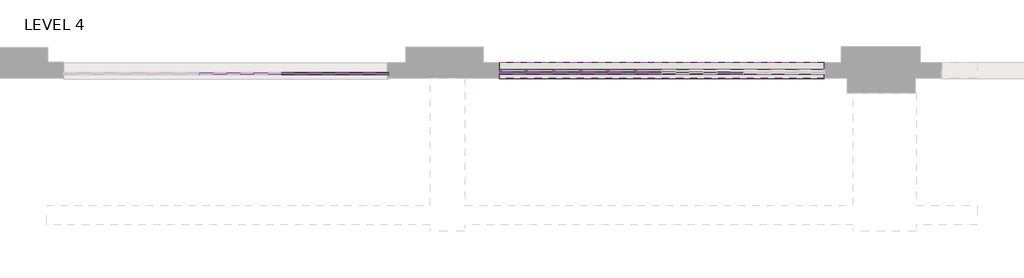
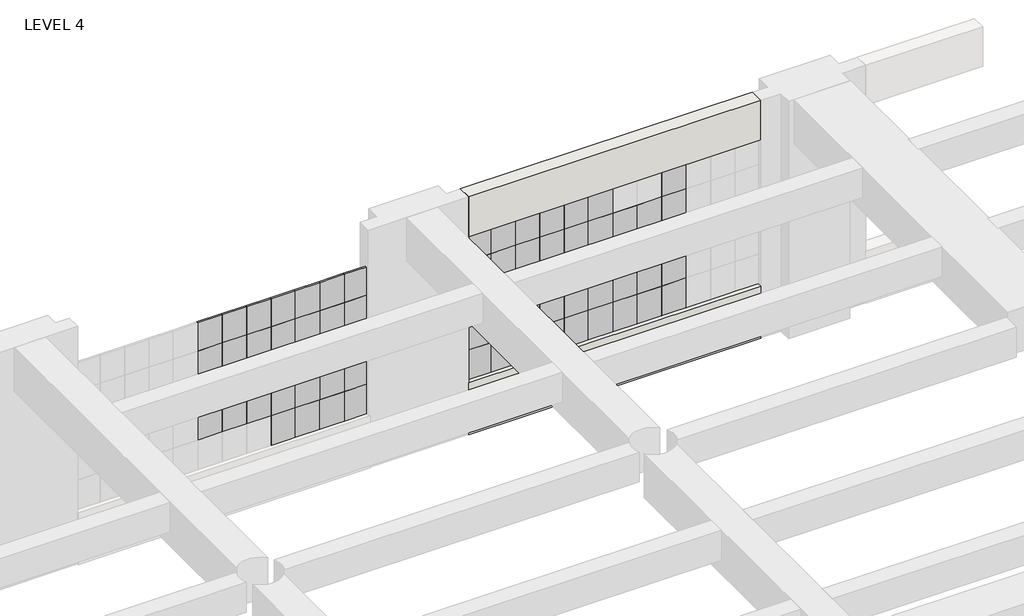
# One storey, part 12 of 26: 75 plates, 55 members, 2 walls.
"""IFC4 building model written with IfcOpenShell, lengths in millimetres."""

from ifc_helpers import new_model, si_unit, frame, origin, origin_with_axes, place, context, project, spatial, polyline, outline, extrude, transform, mapped, element, save
from components import member_038dcf1c, member_3d4b608b, member_3c10d71f, member_653bb31e, member_9ec6e97d, member_6e26db71, member_d9fec558, member_6c57b699, member_ec43e15b, member_0f6da5c5, member_0e6c94ff, system_panel_glazed_ab35d819, system_panel_glazed_fc65e113, system_panel_glazed_418eb6cd, system_panel_glazed_dc7be1f0

model = new_model("IFC4")

# Units and contexts
model_context = context("Model", 3, world=origin())
ifc_project = project(units=[si_unit("LENGTHUNIT", "METRE", prefix="MILLI")], contexts=[model_context])

# Site, building, storey
site = spatial("IfcSite", under=ifc_project)
building = spatial("IfcBuilding", under=site)
storey = spatial("IfcBuildingStorey", under=building, Name="LEVEL 4", Elevation=0.0)

# Members
placement = place(None, origin())
member_shape = member_038dcf1c(model_context)
element("IfcMember", 1, ObjectType="Circular Mullion : 1 1/4\" Square", at=placement, inside=storey, context=model_context, shape_type="MappedRepresentation", body=[
    mapped(member_shape, transform((-25211.1085473, 117234.1841334, 2628.9), x_axis=(-1.0, 0.0, 0.0), y_axis=(0.0, -1.0, 0.0), z_axis=(0.0, 0.0, 1.0))),
])
element("IfcMember", 2, ObjectType="Circular Mullion : 1 1/4\" Square", at=placement, inside=storey, context=model_context, shape_type="MappedRepresentation", body=[
    mapped(member_shape, transform((-25211.1085473, 117234.1841334, 2171.7), x_axis=(-1.0, 0.0, 0.0), y_axis=(0.0, -1.0, 0.0), z_axis=(0.0, 0.0, 1.0))),
])
member_2_shape = member_3d4b608b(model_context)
element("IfcMember", 3, ObjectType="Circular Mullion : 1 1/4\" Square", at=placement, inside=storey, context=model_context, shape_type="MappedRepresentation", body=[
    mapped(member_2_shape, transform((-24855.508547, 117234.1841334, 2171.7), x_axis=(1.0, 0.0, 0.0), y_axis=(0.0, -1.0, 0.0), z_axis=(0.0, 0.0, -1.0))),
])
element("IfcMember", 4, ObjectType="Circular Mullion : 1 1/4\" Square", at=placement, inside=storey, context=model_context, shape_type="MappedRepresentation", body=[
    mapped(member_2_shape, transform((-24855.508547, 117234.1841334, 1714.5), x_axis=(1.0, 0.0, 0.0), y_axis=(0.0, -1.0, 0.0), z_axis=(0.0, 0.0, -1.0))),
])
element("IfcMember", 5, ObjectType="Circular Mullion : 1 1/4\" Square", at=placement, inside=storey, context=model_context, shape_type="MappedRepresentation", body=[
    mapped(member_2_shape, transform((-24499.908547, 117234.1841334, 2171.7), x_axis=(1.0, 0.0, 0.0), y_axis=(0.0, -1.0, 0.0), z_axis=(0.0, 0.0, -1.0))),
])
element("IfcMember", 6, ObjectType="Circular Mullion : 1 1/4\" Square", at=placement, inside=storey, context=model_context, shape_type="MappedRepresentation", body=[
    mapped(member_2_shape, transform((-24499.908547, 117234.1841334, 1714.5), x_axis=(1.0, 0.0, 0.0), y_axis=(0.0, -1.0, 0.0), z_axis=(0.0, 0.0, -1.0))),
])
element("IfcMember", 7, ObjectType="Circular Mullion : 1 1/4\" Square", at=placement, inside=storey, context=model_context, shape_type="MappedRepresentation", body=[
    mapped(member_2_shape, transform((-24144.308547, 117234.1841334, 2171.7), x_axis=(1.0, 0.0, 0.0), y_axis=(0.0, -1.0, 0.0), z_axis=(0.0, 0.0, -1.0))),
])
element("IfcMember", 8, ObjectType="Circular Mullion : 1 1/4\" Square", at=placement, inside=storey, context=model_context, shape_type="MappedRepresentation", body=[
    mapped(member_2_shape, transform((-24144.308547, 117234.1841334, 1714.5), x_axis=(1.0, 0.0, 0.0), y_axis=(0.0, -1.0, 0.0), z_axis=(0.0, 0.0, -1.0))),
])
element("IfcMember", 9, ObjectType="Circular Mullion : 1 1/4\" Square", at=placement, inside=storey, context=model_context, shape_type="MappedRepresentation", body=[
    mapped(member_2_shape, transform((-23788.708547, 117234.1841334, 2171.7), x_axis=(1.0, 0.0, 0.0), y_axis=(0.0, -1.0, 0.0), z_axis=(0.0, 0.0, -1.0))),
])
element("IfcMember", 10, ObjectType="Circular Mullion : 1 1/4\" Square", at=placement, inside=storey, context=model_context, shape_type="MappedRepresentation", body=[
    mapped(member_2_shape, transform((-23788.708547, 117234.1841334, 1714.5), x_axis=(1.0, 0.0, 0.0), y_axis=(0.0, -1.0, 0.0), z_axis=(0.0, 0.0, -1.0))),
])
element("IfcMember", 11, ObjectType="Circular Mullion : 1 1/4\" Square", at=placement, inside=storey, context=model_context, shape_type="MappedRepresentation", body=[
    mapped(member_2_shape, transform((-23433.108547, 117234.1841334, 2171.7), x_axis=(1.0, 0.0, 0.0), y_axis=(0.0, -1.0, 0.0), z_axis=(0.0, 0.0, -1.0))),
])
element("IfcMember", 12, ObjectType="Circular Mullion : 1 1/4\" Square", at=placement, inside=storey, context=model_context, shape_type="MappedRepresentation", body=[
    mapped(member_2_shape, transform((-23433.108547, 117234.1841334, 1714.5), x_axis=(1.0, 0.0, 0.0), y_axis=(0.0, -1.0, 0.0), z_axis=(0.0, 0.0, -1.0))),
])
member_3_shape = member_3c10d71f(model_context)
element("IfcMember", 13, ObjectType="Circular Mullion : 1 1/4\" Square", at=placement, inside=storey, context=model_context, shape_type="MappedRepresentation", body=[
    mapped(member_3_shape, transform((-24487.208547, 117234.1841334, 800.1), x_axis=(0.0, 0.0, -1.0), y_axis=(0.0, -1.0, 0.0), z_axis=(-1.0, 0.0, 0.0))),
])
element("IfcMember", 14, ObjectType="Circular Mullion : 1 1/4\" Square", at=placement, inside=storey, context=model_context, shape_type="MappedRepresentation", body=[
    mapped(member_3_shape, transform((-24842.808547, 117234.1841334, 800.1), x_axis=(0.0, 0.0, -1.0), y_axis=(0.0, -1.0, 0.0), z_axis=(-1.0, 0.0, 0.0))),
])
element("IfcMember", 15, ObjectType="Circular Mullion : 1 1/4\" Square", at=placement, inside=storey, context=model_context, shape_type="MappedRepresentation", body=[
    mapped(member_3_shape, transform((-24131.608547, 117234.1841334, 800.1), x_axis=(0.0, 0.0, -1.0), y_axis=(0.0, -1.0, 0.0), z_axis=(-1.0, 0.0, 0.0))),
])
element("IfcMember", 16, ObjectType="Circular Mullion : 1 1/4\" Square", at=placement, inside=storey, context=model_context, shape_type="MappedRepresentation", body=[
    mapped(member_3_shape, transform((-23776.008547, 117234.1841334, 800.1), x_axis=(0.0, 0.0, -1.0), y_axis=(0.0, -1.0, 0.0), z_axis=(-1.0, 0.0, 0.0))),
])
member_4_shape = member_653bb31e(model_context)
element("IfcMember", 17, ObjectType="Circular Mullion : 1 1/4\" Square", at=placement, inside=storey, context=model_context, shape_type="MappedRepresentation", body=[
    mapped(member_4_shape, transform((-24157.008547, 117234.1841334, 1714.5), x_axis=(0.0, 0.0, 1.0), y_axis=(0.0, -1.0, 0.0), z_axis=(1.0, 0.0, 0.0))),
])
element("IfcMember", 18, ObjectType="Circular Mullion : 1 1/4\" Square", at=placement, inside=storey, context=model_context, shape_type="MappedRepresentation", body=[
    mapped(member_4_shape, transform((-24512.608547, 117234.1841334, 1714.5), x_axis=(0.0, 0.0, 1.0), y_axis=(0.0, -1.0, 0.0), z_axis=(1.0, 0.0, 0.0))),
])
element("IfcMember", 19, ObjectType="Circular Mullion : 1 1/4\" Square", at=placement, inside=storey, context=model_context, shape_type="MappedRepresentation", body=[
    mapped(member_4_shape, transform((-23801.408547, 117234.1841334, 1714.5), x_axis=(0.0, 0.0, 1.0), y_axis=(0.0, -1.0, 0.0), z_axis=(1.0, 0.0, 0.0))),
])
element("IfcMember", 20, ObjectType="Circular Mullion : 1 1/4\" Square", at=placement, inside=storey, context=model_context, shape_type="MappedRepresentation", body=[
    mapped(member_4_shape, transform((-23445.808547, 117234.1841334, 1714.5), x_axis=(0.0, 0.0, 1.0), y_axis=(0.0, -1.0, 0.0), z_axis=(1.0, 0.0, 0.0))),
])
element("IfcMember", 21, ObjectType="Circular Mullion : 1 1/4\" Square", at=placement, inside=storey, context=model_context, shape_type="MappedRepresentation", body=[
    mapped(member_4_shape, transform((-24157.008547, 117234.1841334, 2628.9), x_axis=(0.0, 0.0, 1.0), y_axis=(0.0, -1.0, 0.0), z_axis=(1.0, 0.0, 0.0))),
])
element("IfcMember", 22, ObjectType="Circular Mullion : 1 1/4\" Square", at=placement, inside=storey, context=model_context, shape_type="MappedRepresentation", body=[
    mapped(member_4_shape, transform((-24512.608547, 117234.1841334, 2628.9), x_axis=(0.0, 0.0, 1.0), y_axis=(0.0, -1.0, 0.0), z_axis=(1.0, 0.0, 0.0))),
])
element("IfcMember", 23, ObjectType="Circular Mullion : 1 1/4\" Square", at=placement, inside=storey, context=model_context, shape_type="MappedRepresentation", body=[
    mapped(member_4_shape, transform((-23801.408547, 117234.1841334, 2628.9), x_axis=(0.0, 0.0, 1.0), y_axis=(0.0, -1.0, 0.0), z_axis=(1.0, 0.0, 0.0))),
])
element("IfcMember", 24, ObjectType="Circular Mullion : 1 1/4\" Square", at=placement, inside=storey, context=model_context, shape_type="MappedRepresentation", body=[
    mapped(member_4_shape, transform((-23445.808547, 117234.1841334, 2628.9), x_axis=(0.0, 0.0, 1.0), y_axis=(0.0, -1.0, 0.0), z_axis=(1.0, 0.0, 0.0))),
])
element("IfcMember", 25, ObjectType="Circular Mullion : 1 1/4\" Square", at=placement, inside=storey, context=model_context, shape_type="MappedRepresentation", body=[
    mapped(member_4_shape, transform((-24157.008547, 117234.1841334, 2171.7), x_axis=(0.0, 0.0, 1.0), y_axis=(0.0, -1.0, 0.0), z_axis=(1.0, 0.0, 0.0))),
])
element("IfcMember", 26, ObjectType="Circular Mullion : 1 1/4\" Square", at=placement, inside=storey, context=model_context, shape_type="MappedRepresentation", body=[
    mapped(member_4_shape, transform((-24512.608547, 117234.1841334, 2171.7), x_axis=(0.0, 0.0, 1.0), y_axis=(0.0, -1.0, 0.0), z_axis=(1.0, 0.0, 0.0))),
])
element("IfcMember", 27, ObjectType="Circular Mullion : 1 1/4\" Square", at=placement, inside=storey, context=model_context, shape_type="MappedRepresentation", body=[
    mapped(member_4_shape, transform((-23801.408547, 117234.1841334, 2171.7), x_axis=(0.0, 0.0, 1.0), y_axis=(0.0, -1.0, 0.0), z_axis=(1.0, 0.0, 0.0))),
])
element("IfcMember", 28, ObjectType="Circular Mullion : 1 1/4\" Square", at=placement, inside=storey, context=model_context, shape_type="MappedRepresentation", body=[
    mapped(member_4_shape, transform((-23445.808547, 117234.1841334, 2171.7), x_axis=(0.0, 0.0, 1.0), y_axis=(0.0, -1.0, 0.0), z_axis=(1.0, 0.0, 0.0))),
])
member_5_shape = member_9ec6e97d(model_context)
element("IfcMember", 29, ObjectType="Circular Mullion : 1 1/4\" Square", at=placement, inside=storey, context=model_context, shape_type="MappedRepresentation", body=[
    mapped(member_5_shape, transform((-25185.7085473, 117234.1841334, 800.1), x_axis=(0.0, 0.0, -1.0), y_axis=(0.0, -1.0, 0.0), z_axis=(-1.0, 0.0, 0.0))),
])
member_6_shape = member_6e26db71(model_context)
element("IfcMember", 30, ObjectType="Circular Mullion : 1 1/4\" Square", at=placement, inside=storey, context=model_context, shape_type="MappedRepresentation", body=[
    mapped(member_6_shape, transform((-24868.208547, 117234.1841334, 1714.5), x_axis=(0.0, 0.0, 1.0), y_axis=(0.0, -1.0, 0.0), z_axis=(1.0, 0.0, 0.0))),
])
element("IfcMember", 31, ObjectType="Circular Mullion : 1 1/4\" Square", at=placement, inside=storey, context=model_context, shape_type="MappedRepresentation", body=[
    mapped(member_6_shape, transform((-24868.208547, 117234.1841334, 2628.9), x_axis=(0.0, 0.0, 1.0), y_axis=(0.0, -1.0, 0.0), z_axis=(1.0, 0.0, 0.0))),
])
element("IfcMember", 32, ObjectType="Circular Mullion : 1 1/4\" Square", at=placement, inside=storey, context=model_context, shape_type="MappedRepresentation", body=[
    mapped(member_6_shape, transform((-24868.208547, 117234.1841334, 2171.7), x_axis=(0.0, 0.0, 1.0), y_axis=(0.0, -1.0, 0.0), z_axis=(1.0, 0.0, 0.0))),
])
member_7_shape = member_d9fec558(model_context)
element("IfcMember", 33, ObjectType="Circular Mullion : 1 1/4\" Square", at=placement, inside=storey, context=model_context, shape_type="MappedRepresentation", body=[
    mapped(member_7_shape, transform((-24855.508547, 117234.1841334, 2628.9), x_axis=(1.0, 0.0, 0.0), y_axis=(0.0, -1.0, 0.0), z_axis=(0.0, 0.0, -1.0))),
])
element("IfcMember", 34, ObjectType="Circular Mullion : 1 1/4\" Square", at=placement, inside=storey, context=model_context, shape_type="MappedRepresentation", body=[
    mapped(member_7_shape, transform((-24499.908547, 117234.1841334, 2628.9), x_axis=(1.0, 0.0, 0.0), y_axis=(0.0, -1.0, 0.0), z_axis=(0.0, 0.0, -1.0))),
])
element("IfcMember", 35, ObjectType="Circular Mullion : 1 1/4\" Square", at=placement, inside=storey, context=model_context, shape_type="MappedRepresentation", body=[
    mapped(member_7_shape, transform((-24144.308547, 117234.1841334, 2628.9), x_axis=(1.0, 0.0, 0.0), y_axis=(0.0, -1.0, 0.0), z_axis=(0.0, 0.0, -1.0))),
])
element("IfcMember", 36, ObjectType="Circular Mullion : 1 1/4\" Square", at=placement, inside=storey, context=model_context, shape_type="MappedRepresentation", body=[
    mapped(member_7_shape, transform((-23788.708547, 117234.1841334, 2628.9), x_axis=(1.0, 0.0, 0.0), y_axis=(0.0, -1.0, 0.0), z_axis=(0.0, 0.0, -1.0))),
])
element("IfcMember", 37, ObjectType="Circular Mullion : 1 1/4\" Square", at=placement, inside=storey, context=model_context, shape_type="MappedRepresentation", body=[
    mapped(member_7_shape, transform((-23433.108547, 117234.1841334, 2628.9), x_axis=(1.0, 0.0, 0.0), y_axis=(0.0, -1.0, 0.0), z_axis=(0.0, 0.0, -1.0))),
])
member_8_shape = member_6c57b699(model_context)
element("IfcMember", 38, ObjectType="Circular Mullion : 1 1/4\" Square", at=placement, inside=storey, context=model_context, shape_type="MappedRepresentation", body=[
    mapped(member_8_shape, transform((-23077.508547, 117234.1841334, 1714.5), x_axis=(0.0, 0.0, 1.0), y_axis=(0.0, -1.0, 0.0), z_axis=(1.0, 0.0, 0.0))),
])
element("IfcMember", 39, ObjectType="Circular Mullion : 1 1/4\" Square", at=placement, inside=storey, context=model_context, shape_type="MappedRepresentation", body=[
    mapped(member_8_shape, transform((-23077.508547, 117234.1841334, 2628.9), x_axis=(0.0, 0.0, 1.0), y_axis=(0.0, -1.0, 0.0), z_axis=(1.0, 0.0, 0.0))),
])
element("IfcMember", 40, ObjectType="Circular Mullion : 1 1/4\" Square", at=placement, inside=storey, context=model_context, shape_type="MappedRepresentation", body=[
    mapped(member_8_shape, transform((-23077.508547, 117234.1841334, 2171.7), x_axis=(0.0, 0.0, 1.0), y_axis=(0.0, -1.0, 0.0), z_axis=(1.0, 0.0, 0.0))),
])
member_9_shape = member_ec43e15b(model_context)
element("IfcMember", 41, ObjectType="Circular Mullion : 1 1/4\" Square", at=placement, inside=storey, context=model_context, shape_type="MappedRepresentation", body=[
    mapped(member_9_shape, transform((-23077.508547, 117234.1841334, 800.1), x_axis=(0.0, 0.0, -1.0), y_axis=(0.0, -1.0, 0.0), z_axis=(-1.0, 0.0, 0.0))),
])
element("IfcMember", 42, ObjectType="Circular Mullion : 1 1/4\" Square", at=placement, inside=storey, context=model_context, shape_type="MappedRepresentation", body=[
    mapped(member_shape, transform((-25211.1085473, 117234.1841334, 1257.3), x_axis=(-1.0, 0.0, 0.0), y_axis=(0.0, -1.0, 0.0), z_axis=(0.0, 0.0, 1.0))),
])
element("IfcMember", 43, ObjectType="Circular Mullion : 1 1/4\" Square", at=placement, inside=storey, context=model_context, shape_type="MappedRepresentation", body=[
    mapped(member_2_shape, transform((-24855.508547, 117234.1841334, 800.1), x_axis=(1.0, 0.0, 0.0), y_axis=(0.0, -1.0, 0.0), z_axis=(0.0, 0.0, -1.0))),
])
element("IfcMember", 44, ObjectType="Circular Mullion : 1 1/4\" Square", at=placement, inside=storey, context=model_context, shape_type="MappedRepresentation", body=[
    mapped(member_2_shape, transform((-24499.908547, 117234.1841334, 800.1), x_axis=(1.0, 0.0, 0.0), y_axis=(0.0, -1.0, 0.0), z_axis=(0.0, 0.0, -1.0))),
])
element("IfcMember", 45, ObjectType="Circular Mullion : 1 1/4\" Square", at=placement, inside=storey, context=model_context, shape_type="MappedRepresentation", body=[
    mapped(member_2_shape, transform((-24144.308547, 117234.1841334, 800.1), x_axis=(1.0, 0.0, 0.0), y_axis=(0.0, -1.0, 0.0), z_axis=(0.0, 0.0, -1.0))),
])
element("IfcMember", 46, ObjectType="Circular Mullion : 1 1/4\" Square", at=placement, inside=storey, context=model_context, shape_type="MappedRepresentation", body=[
    mapped(member_2_shape, transform((-23788.708547, 117234.1841334, 800.1), x_axis=(1.0, 0.0, 0.0), y_axis=(0.0, -1.0, 0.0), z_axis=(0.0, 0.0, -1.0))),
])
element("IfcMember", 47, ObjectType="Circular Mullion : 1 1/4\" Square", at=placement, inside=storey, context=model_context, shape_type="MappedRepresentation", body=[
    mapped(member_2_shape, transform((-23433.108547, 117234.1841334, 800.1), x_axis=(1.0, 0.0, 0.0), y_axis=(0.0, -1.0, 0.0), z_axis=(0.0, 0.0, -1.0))),
])
member_10_shape = member_0f6da5c5(model_context)
element("IfcMember", 48, ObjectType="Circular Mullion : 1 1/4\" Square", at=placement, inside=storey, context=model_context, shape_type="MappedRepresentation", body=[
    mapped(member_10_shape, transform((-23420.408547, 117234.1841334, 800.1), x_axis=(0.0, 0.0, -1.0), y_axis=(0.0, -1.0, 0.0), z_axis=(-1.0, 0.0, 0.0))),
])
element("IfcMember", 49, ObjectType="Circular Mullion : 1 1/4\" Square", at=placement, inside=storey, context=model_context, shape_type="MappedRepresentation", body=[
    mapped(member_2_shape, transform((-24855.508547, 117234.1841334, 1257.3), x_axis=(1.0, 0.0, 0.0), y_axis=(0.0, -1.0, 0.0), z_axis=(0.0, 0.0, -1.0))),
])
element("IfcMember", 50, ObjectType="Circular Mullion : 1 1/4\" Square", at=placement, inside=storey, context=model_context, shape_type="MappedRepresentation", body=[
    mapped(member_2_shape, transform((-24499.908547, 117234.1841334, 1257.3), x_axis=(1.0, 0.0, 0.0), y_axis=(0.0, -1.0, 0.0), z_axis=(0.0, 0.0, -1.0))),
])
element("IfcMember", 51, ObjectType="Circular Mullion : 1 1/4\" Square", at=placement, inside=storey, context=model_context, shape_type="MappedRepresentation", body=[
    mapped(member_2_shape, transform((-24144.308547, 117234.1841334, 1257.3), x_axis=(1.0, 0.0, 0.0), y_axis=(0.0, -1.0, 0.0), z_axis=(0.0, 0.0, -1.0))),
])
element("IfcMember", 52, ObjectType="Circular Mullion : 1 1/4\" Square", at=placement, inside=storey, context=model_context, shape_type="MappedRepresentation", body=[
    mapped(member_2_shape, transform((-23788.708547, 117234.1841334, 1257.3), x_axis=(1.0, 0.0, 0.0), y_axis=(0.0, -1.0, 0.0), z_axis=(0.0, 0.0, -1.0))),
])
element("IfcMember", 53, ObjectType="Circular Mullion : 1 1/4\" Square", at=placement, inside=storey, context=model_context, shape_type="MappedRepresentation", body=[
    mapped(member_2_shape, transform((-23433.108547, 117234.1841334, 1257.3), x_axis=(1.0, 0.0, 0.0), y_axis=(0.0, -1.0, 0.0), z_axis=(0.0, 0.0, -1.0))),
])
element("IfcMember", 54, ObjectType="Circular Mullion : 1 1/4\" Square", at=placement, inside=storey, context=model_context, shape_type="MappedRepresentation", body=[
    mapped(member_shape, transform((-25211.1085473, 117234.1841334, 1714.5), x_axis=(-1.0, 0.0, 0.0), y_axis=(0.0, -1.0, 0.0), z_axis=(0.0, 0.0, 1.0))),
])
member_11_shape = member_0e6c94ff(model_context)
element("IfcMember", 55, ObjectType="Circular Mullion : 1 1/4\" Square", at=placement, inside=storey, context=model_context, shape_type="MappedRepresentation", body=[
    mapped(member_11_shape, transform((-25211.1085473, 117234.1841334, 3060.7), x_axis=(-1.0, 0.0, 0.0), y_axis=(0.0, -1.0, 0.0), z_axis=(0.0, 0.0, 1.0))),
])

# Plates
system_panel_glazed_shape = system_panel_glazed_ab35d819(model_context)
element("IfcPlate", 56, ObjectType="System Panel : Glazed", at=placement, inside=storey, context=model_context, shape_type="MappedRepresentation", body=[
    mapped(system_panel_glazed_shape, transform((-25033.3085471, 117234.1841334, 800.1), x_axis=(1.0, 0.0, 0.0), y_axis=(0.0, 1.0, 0.0), z_axis=(0.0, 0.0, 1.0))),
])
element("IfcPlate", 57, ObjectType="System Panel : Glazed", at=placement, inside=storey, context=model_context, shape_type="MappedRepresentation", body=[
    mapped(system_panel_glazed_shape, transform((-22188.508547, 117234.1841334, 800.1), x_axis=(1.0, 0.0, 0.0), y_axis=(0.0, 1.0, 0.0), z_axis=(0.0, 0.0, 1.0))),
])
element("IfcPlate", 58, ObjectType="System Panel : Glazed", at=placement, inside=storey, context=model_context, shape_type="MappedRepresentation", body=[
    mapped(system_panel_glazed_shape, transform((-22544.108547, 117234.1841334, 800.1), x_axis=(1.0, 0.0, 0.0), y_axis=(0.0, 1.0, 0.0), z_axis=(0.0, 0.0, 1.0))),
])
element("IfcPlate", 59, ObjectType="System Panel : Glazed", at=placement, inside=storey, context=model_context, shape_type="MappedRepresentation", body=[
    mapped(system_panel_glazed_shape, transform((-22899.708547, 117234.1841334, 800.1), x_axis=(1.0, 0.0, 0.0), y_axis=(0.0, 1.0, 0.0), z_axis=(0.0, 0.0, 1.0))),
])
element("IfcPlate", 60, ObjectType="System Panel : Glazed", at=placement, inside=storey, context=model_context, shape_type="MappedRepresentation", body=[
    mapped(system_panel_glazed_shape, transform((-23255.308547, 117234.1841334, 800.1), x_axis=(1.0, 0.0, 0.0), y_axis=(0.0, 1.0, 0.0), z_axis=(0.0, 0.0, 1.0))),
])
element("IfcPlate", 61, ObjectType="System Panel : Glazed", at=placement, inside=storey, context=model_context, shape_type="MappedRepresentation", body=[
    mapped(system_panel_glazed_shape, transform((-23610.908547, 117234.1841334, 800.1), x_axis=(1.0, 0.0, 0.0), y_axis=(0.0, 1.0, 0.0), z_axis=(0.0, 0.0, 1.0))),
])
element("IfcPlate", 62, ObjectType="System Panel : Glazed", at=placement, inside=storey, context=model_context, shape_type="MappedRepresentation", body=[
    mapped(system_panel_glazed_shape, transform((-23966.508547, 117234.1841334, 800.1), x_axis=(1.0, 0.0, 0.0), y_axis=(0.0, 1.0, 0.0), z_axis=(0.0, 0.0, 1.0))),
])
element("IfcPlate", 63, ObjectType="System Panel : Glazed", at=placement, inside=storey, context=model_context, shape_type="MappedRepresentation", body=[
    mapped(system_panel_glazed_shape, transform((-25033.3085471, 117234.1841334, 1257.3), x_axis=(1.0, 0.0, 0.0), y_axis=(0.0, 1.0, 0.0), z_axis=(0.0, 0.0, 1.0))),
])
element("IfcPlate", 64, ObjectType="System Panel : Glazed", at=placement, inside=storey, context=model_context, shape_type="MappedRepresentation", body=[
    mapped(system_panel_glazed_shape, transform((-22188.508547, 117234.1841334, 1257.3), x_axis=(1.0, 0.0, 0.0), y_axis=(0.0, 1.0, 0.0), z_axis=(0.0, 0.0, 1.0))),
])
element("IfcPlate", 65, ObjectType="System Panel : Glazed", at=placement, inside=storey, context=model_context, shape_type="MappedRepresentation", body=[
    mapped(system_panel_glazed_shape, transform((-22544.108547, 117234.1841334, 1257.3), x_axis=(1.0, 0.0, 0.0), y_axis=(0.0, 1.0, 0.0), z_axis=(0.0, 0.0, 1.0))),
])
element("IfcPlate", 66, ObjectType="System Panel : Glazed", at=placement, inside=storey, context=model_context, shape_type="MappedRepresentation", body=[
    mapped(system_panel_glazed_shape, transform((-22899.708547, 117234.1841334, 1257.3), x_axis=(1.0, 0.0, 0.0), y_axis=(0.0, 1.0, 0.0), z_axis=(0.0, 0.0, 1.0))),
])
element("IfcPlate", 67, ObjectType="System Panel : Glazed", at=placement, inside=storey, context=model_context, shape_type="MappedRepresentation", body=[
    mapped(system_panel_glazed_shape, transform((-23255.308547, 117234.1841334, 1257.3), x_axis=(1.0, 0.0, 0.0), y_axis=(0.0, 1.0, 0.0), z_axis=(0.0, 0.0, 1.0))),
])
element("IfcPlate", 68, ObjectType="System Panel : Glazed", at=placement, inside=storey, context=model_context, shape_type="MappedRepresentation", body=[
    mapped(system_panel_glazed_shape, transform((-23610.908547, 117234.1841334, 1257.3), x_axis=(1.0, 0.0, 0.0), y_axis=(0.0, 1.0, 0.0), z_axis=(0.0, 0.0, 1.0))),
])
element("IfcPlate", 69, ObjectType="System Panel : Glazed", at=placement, inside=storey, context=model_context, shape_type="MappedRepresentation", body=[
    mapped(system_panel_glazed_shape, transform((-23966.508547, 117234.1841334, 1257.3), x_axis=(1.0, 0.0, 0.0), y_axis=(0.0, 1.0, 0.0), z_axis=(0.0, 0.0, 1.0))),
])
element("IfcPlate", 70, ObjectType="System Panel : Glazed", at=placement, inside=storey, context=model_context, shape_type="MappedRepresentation", body=[
    mapped(system_panel_glazed_shape, transform((-25033.3085471, 117234.1841334, 1714.5), x_axis=(1.0, 0.0, 0.0), y_axis=(0.0, 1.0, 0.0), z_axis=(0.0, 0.0, 1.0))),
])
element("IfcPlate", 71, ObjectType="System Panel : Glazed", at=placement, inside=storey, context=model_context, shape_type="MappedRepresentation", body=[
    mapped(system_panel_glazed_shape, transform((-22188.508547, 117234.1841334, 1714.5), x_axis=(1.0, 0.0, 0.0), y_axis=(0.0, 1.0, 0.0), z_axis=(0.0, 0.0, 1.0))),
])
element("IfcPlate", 72, ObjectType="System Panel : Glazed", at=placement, inside=storey, context=model_context, shape_type="MappedRepresentation", body=[
    mapped(system_panel_glazed_shape, transform((-22544.108547, 117234.1841334, 1714.5), x_axis=(1.0, 0.0, 0.0), y_axis=(0.0, 1.0, 0.0), z_axis=(0.0, 0.0, 1.0))),
])
element("IfcPlate", 73, ObjectType="System Panel : Glazed", at=placement, inside=storey, context=model_context, shape_type="MappedRepresentation", body=[
    mapped(system_panel_glazed_shape, transform((-22899.708547, 117234.1841334, 1714.5), x_axis=(1.0, 0.0, 0.0), y_axis=(0.0, 1.0, 0.0), z_axis=(0.0, 0.0, 1.0))),
])
element("IfcPlate", 74, ObjectType="System Panel : Glazed", at=placement, inside=storey, context=model_context, shape_type="MappedRepresentation", body=[
    mapped(system_panel_glazed_shape, transform((-23255.308547, 117234.1841334, 1714.5), x_axis=(1.0, 0.0, 0.0), y_axis=(0.0, 1.0, 0.0), z_axis=(0.0, 0.0, 1.0))),
])
element("IfcPlate", 75, ObjectType="System Panel : Glazed", at=placement, inside=storey, context=model_context, shape_type="MappedRepresentation", body=[
    mapped(system_panel_glazed_shape, transform((-23610.908547, 117234.1841334, 1714.5), x_axis=(1.0, 0.0, 0.0), y_axis=(0.0, 1.0, 0.0), z_axis=(0.0, 0.0, 1.0))),
])
element("IfcPlate", 76, ObjectType="System Panel : Glazed", at=placement, inside=storey, context=model_context, shape_type="MappedRepresentation", body=[
    mapped(system_panel_glazed_shape, transform((-23966.508547, 117234.1841334, 1714.5), x_axis=(1.0, 0.0, 0.0), y_axis=(0.0, 1.0, 0.0), z_axis=(0.0, 0.0, 1.0))),
])
element("IfcPlate", 77, ObjectType="System Panel : Glazed", at=placement, inside=storey, context=model_context, shape_type="MappedRepresentation", body=[
    mapped(system_panel_glazed_shape, transform((-25033.3085471, 117234.1841334, 2171.7), x_axis=(1.0, 0.0, 0.0), y_axis=(0.0, 1.0, 0.0), z_axis=(0.0, 0.0, 1.0))),
])
element("IfcPlate", 78, ObjectType="System Panel : Glazed", at=placement, inside=storey, context=model_context, shape_type="MappedRepresentation", body=[
    mapped(system_panel_glazed_shape, transform((-22188.508547, 117234.1841334, 2171.7), x_axis=(1.0, 0.0, 0.0), y_axis=(0.0, 1.0, 0.0), z_axis=(0.0, 0.0, 1.0))),
])
element("IfcPlate", 79, ObjectType="System Panel : Glazed", at=placement, inside=storey, context=model_context, shape_type="MappedRepresentation", body=[
    mapped(system_panel_glazed_shape, transform((-22544.108547, 117234.1841334, 2171.7), x_axis=(1.0, 0.0, 0.0), y_axis=(0.0, 1.0, 0.0), z_axis=(0.0, 0.0, 1.0))),
])
element("IfcPlate", 80, ObjectType="System Panel : Glazed", at=placement, inside=storey, context=model_context, shape_type="MappedRepresentation", body=[
    mapped(system_panel_glazed_shape, transform((-22899.708547, 117234.1841334, 2171.7), x_axis=(1.0, 0.0, 0.0), y_axis=(0.0, 1.0, 0.0), z_axis=(0.0, 0.0, 1.0))),
])
element("IfcPlate", 81, ObjectType="System Panel : Glazed", at=placement, inside=storey, context=model_context, shape_type="MappedRepresentation", body=[
    mapped(system_panel_glazed_shape, transform((-23255.308547, 117234.1841334, 2171.7), x_axis=(1.0, 0.0, 0.0), y_axis=(0.0, 1.0, 0.0), z_axis=(0.0, 0.0, 1.0))),
])
element("IfcPlate", 82, ObjectType="System Panel : Glazed", at=placement, inside=storey, context=model_context, shape_type="MappedRepresentation", body=[
    mapped(system_panel_glazed_shape, transform((-23610.908547, 117234.1841334, 2171.7), x_axis=(1.0, 0.0, 0.0), y_axis=(0.0, 1.0, 0.0), z_axis=(0.0, 0.0, 1.0))),
])
element("IfcPlate", 83, ObjectType="System Panel : Glazed", at=placement, inside=storey, context=model_context, shape_type="MappedRepresentation", body=[
    mapped(system_panel_glazed_shape, transform((-23966.508547, 117234.1841334, 2171.7), x_axis=(1.0, 0.0, 0.0), y_axis=(0.0, 1.0, 0.0), z_axis=(0.0, 0.0, 1.0))),
])
element("IfcPlate", 84, ObjectType="System Panel : Glazed", at=placement, inside=storey, context=model_context, shape_type="MappedRepresentation", body=[
    mapped(system_panel_glazed_shape, transform((-24677.708547, 117234.1841334, 800.1), x_axis=(1.0, 0.0, 0.0), y_axis=(0.0, 1.0, 0.0), z_axis=(0.0, 0.0, 1.0))),
])
element("IfcPlate", 85, ObjectType="System Panel : Glazed", at=placement, inside=storey, context=model_context, shape_type="MappedRepresentation", body=[
    mapped(system_panel_glazed_shape, transform((-24677.708547, 117234.1841334, 1257.3), x_axis=(1.0, 0.0, 0.0), y_axis=(0.0, 1.0, 0.0), z_axis=(0.0, 0.0, 1.0))),
])
element("IfcPlate", 86, ObjectType="System Panel : Glazed", at=placement, inside=storey, context=model_context, shape_type="MappedRepresentation", body=[
    mapped(system_panel_glazed_shape, transform((-24677.708547, 117234.1841334, 1714.5), x_axis=(1.0, 0.0, 0.0), y_axis=(0.0, 1.0, 0.0), z_axis=(0.0, 0.0, 1.0))),
])
element("IfcPlate", 87, ObjectType="System Panel : Glazed", at=placement, inside=storey, context=model_context, shape_type="MappedRepresentation", body=[
    mapped(system_panel_glazed_shape, transform((-24677.708547, 117234.1841334, 2171.7), x_axis=(1.0, 0.0, 0.0), y_axis=(0.0, 1.0, 0.0), z_axis=(0.0, 0.0, 1.0))),
])
element("IfcPlate", 88, ObjectType="System Panel : Glazed", at=placement, inside=storey, context=model_context, shape_type="MappedRepresentation", body=[
    mapped(system_panel_glazed_shape, transform((-24322.108547, 117234.1841334, 800.1), x_axis=(1.0, 0.0, 0.0), y_axis=(0.0, 1.0, 0.0), z_axis=(0.0, 0.0, 1.0))),
])
element("IfcPlate", 89, ObjectType="System Panel : Glazed", at=placement, inside=storey, context=model_context, shape_type="MappedRepresentation", body=[
    mapped(system_panel_glazed_shape, transform((-24322.108547, 117234.1841334, 1257.3), x_axis=(1.0, 0.0, 0.0), y_axis=(0.0, 1.0, 0.0), z_axis=(0.0, 0.0, 1.0))),
])
element("IfcPlate", 90, ObjectType="System Panel : Glazed", at=placement, inside=storey, context=model_context, shape_type="MappedRepresentation", body=[
    mapped(system_panel_glazed_shape, transform((-24322.108547, 117234.1841334, 1714.5), x_axis=(1.0, 0.0, 0.0), y_axis=(0.0, 1.0, 0.0), z_axis=(0.0, 0.0, 1.0))),
])
element("IfcPlate", 91, ObjectType="System Panel : Glazed", at=placement, inside=storey, context=model_context, shape_type="MappedRepresentation", body=[
    mapped(system_panel_glazed_shape, transform((-24322.108547, 117234.1841334, 2171.7), x_axis=(1.0, 0.0, 0.0), y_axis=(0.0, 1.0, 0.0), z_axis=(0.0, 0.0, 1.0))),
])
element("IfcPlate", 92, ObjectType="System Panel : Glazed", at=placement, inside=storey, context=model_context, shape_type="MappedRepresentation", body=[
    mapped(system_panel_glazed_shape, transform((-27172.4439792, 117226.3723091, 800.1), x_axis=(1.0, 0.0, 0.0), y_axis=(0.0, 1.0, 0.0), z_axis=(0.0, 0.0, 1.0))),
])
element("IfcPlate", 93, ObjectType="System Panel : Glazed", at=placement, inside=storey, context=model_context, shape_type="MappedRepresentation", body=[
    mapped(system_panel_glazed_shape, transform((-27528.0439792, 117226.3723091, 800.1), x_axis=(1.0, 0.0, 0.0), y_axis=(0.0, 1.0, 0.0), z_axis=(0.0, 0.0, 1.0))),
])
element("IfcPlate", 94, ObjectType="System Panel : Glazed", at=placement, inside=storey, context=model_context, shape_type="MappedRepresentation", body=[
    mapped(system_panel_glazed_shape, transform((-27883.6439792, 117226.3723091, 800.1), x_axis=(1.0, 0.0, 0.0), y_axis=(0.0, 1.0, 0.0), z_axis=(0.0, 0.0, 1.0))),
])
element("IfcPlate", 95, ObjectType="System Panel : Glazed", at=placement, inside=storey, context=model_context, shape_type="MappedRepresentation", body=[
    mapped(system_panel_glazed_shape, transform((-27528.0439792, 117226.3723091, 1257.3), x_axis=(1.0, 0.0, 0.0), y_axis=(0.0, 1.0, 0.0), z_axis=(0.0, 0.0, 1.0))),
])
element("IfcPlate", 96, ObjectType="System Panel : Glazed", at=placement, inside=storey, context=model_context, shape_type="MappedRepresentation", body=[
    mapped(system_panel_glazed_shape, transform((-27883.6439792, 117226.3723091, 1257.3), x_axis=(1.0, 0.0, 0.0), y_axis=(0.0, 1.0, 0.0), z_axis=(0.0, 0.0, 1.0))),
])
element("IfcPlate", 97, ObjectType="System Panel : Glazed", at=placement, inside=storey, context=model_context, shape_type="MappedRepresentation", body=[
    mapped(system_panel_glazed_shape, transform((-28239.2439792, 117226.3723091, 1257.3), x_axis=(1.0, 0.0, 0.0), y_axis=(0.0, 1.0, 0.0), z_axis=(0.0, 0.0, 1.0))),
])
element("IfcPlate", 98, ObjectType="System Panel : Glazed", at=placement, inside=storey, context=model_context, shape_type="MappedRepresentation", body=[
    mapped(system_panel_glazed_shape, transform((-28594.8439792, 117226.3723091, 1257.3), x_axis=(1.0, 0.0, 0.0), y_axis=(0.0, 1.0, 0.0), z_axis=(0.0, 0.0, 1.0))),
])
element("IfcPlate", 99, ObjectType="System Panel : Glazed", at=placement, inside=storey, context=model_context, shape_type="MappedRepresentation", body=[
    mapped(system_panel_glazed_shape, transform((-28950.4439792, 117226.3723091, 1257.3), x_axis=(1.0, 0.0, 0.0), y_axis=(0.0, 1.0, 0.0), z_axis=(0.0, 0.0, 1.0))),
])
element("IfcPlate", 100, ObjectType="System Panel : Glazed", at=placement, inside=storey, context=model_context, shape_type="MappedRepresentation", body=[
    mapped(system_panel_glazed_shape, transform((-27172.4439792, 117226.3723091, 1257.3), x_axis=(1.0, 0.0, 0.0), y_axis=(0.0, 1.0, 0.0), z_axis=(0.0, 0.0, 1.0))),
])
element("IfcPlate", 101, ObjectType="System Panel : Glazed", at=placement, inside=storey, context=model_context, shape_type="MappedRepresentation", body=[
    mapped(system_panel_glazed_shape, transform((-27528.0439792, 117226.3723091, 1714.5), x_axis=(1.0, 0.0, 0.0), y_axis=(0.0, 1.0, 0.0), z_axis=(0.0, 0.0, 1.0))),
])
element("IfcPlate", 102, ObjectType="System Panel : Glazed", at=placement, inside=storey, context=model_context, shape_type="MappedRepresentation", body=[
    mapped(system_panel_glazed_shape, transform((-27883.6439792, 117226.3723091, 1714.5), x_axis=(1.0, 0.0, 0.0), y_axis=(0.0, 1.0, 0.0), z_axis=(0.0, 0.0, 1.0))),
])
element("IfcPlate", 103, ObjectType="System Panel : Glazed", at=placement, inside=storey, context=model_context, shape_type="MappedRepresentation", body=[
    mapped(system_panel_glazed_shape, transform((-28239.2439792, 117226.3723091, 1714.5), x_axis=(1.0, 0.0, 0.0), y_axis=(0.0, 1.0, 0.0), z_axis=(0.0, 0.0, 1.0))),
])
element("IfcPlate", 104, ObjectType="System Panel : Glazed", at=placement, inside=storey, context=model_context, shape_type="MappedRepresentation", body=[
    mapped(system_panel_glazed_shape, transform((-28594.8439792, 117226.3723091, 1714.5), x_axis=(1.0, 0.0, 0.0), y_axis=(0.0, 1.0, 0.0), z_axis=(0.0, 0.0, 1.0))),
])
element("IfcPlate", 105, ObjectType="System Panel : Glazed", at=placement, inside=storey, context=model_context, shape_type="MappedRepresentation", body=[
    mapped(system_panel_glazed_shape, transform((-28950.4439792, 117226.3723091, 1714.5), x_axis=(1.0, 0.0, 0.0), y_axis=(0.0, 1.0, 0.0), z_axis=(0.0, 0.0, 1.0))),
])
element("IfcPlate", 106, ObjectType="System Panel : Glazed", at=placement, inside=storey, context=model_context, shape_type="MappedRepresentation", body=[
    mapped(system_panel_glazed_shape, transform((-27172.4439792, 117226.3723091, 1714.5), x_axis=(1.0, 0.0, 0.0), y_axis=(0.0, 1.0, 0.0), z_axis=(0.0, 0.0, 1.0))),
])
element("IfcPlate", 107, ObjectType="System Panel : Glazed", at=placement, inside=storey, context=model_context, shape_type="MappedRepresentation", body=[
    mapped(system_panel_glazed_shape, transform((-27528.0439792, 117226.3723091, 2171.7), x_axis=(1.0, 0.0, 0.0), y_axis=(0.0, 1.0, 0.0), z_axis=(0.0, 0.0, 1.0))),
])
element("IfcPlate", 108, ObjectType="System Panel : Glazed", at=placement, inside=storey, context=model_context, shape_type="MappedRepresentation", body=[
    mapped(system_panel_glazed_shape, transform((-27883.6439792, 117226.3723091, 2171.7), x_axis=(1.0, 0.0, 0.0), y_axis=(0.0, 1.0, 0.0), z_axis=(0.0, 0.0, 1.0))),
])
element("IfcPlate", 109, ObjectType="System Panel : Glazed", at=placement, inside=storey, context=model_context, shape_type="MappedRepresentation", body=[
    mapped(system_panel_glazed_shape, transform((-28239.2439792, 117226.3723091, 2171.7), x_axis=(1.0, 0.0, 0.0), y_axis=(0.0, 1.0, 0.0), z_axis=(0.0, 0.0, 1.0))),
])
element("IfcPlate", 110, ObjectType="System Panel : Glazed", at=placement, inside=storey, context=model_context, shape_type="MappedRepresentation", body=[
    mapped(system_panel_glazed_shape, transform((-28594.8439792, 117226.3723091, 2171.7), x_axis=(1.0, 0.0, 0.0), y_axis=(0.0, 1.0, 0.0), z_axis=(0.0, 0.0, 1.0))),
])
element("IfcPlate", 111, ObjectType="System Panel : Glazed", at=placement, inside=storey, context=model_context, shape_type="MappedRepresentation", body=[
    mapped(system_panel_glazed_shape, transform((-28950.4439792, 117226.3723091, 2171.7), x_axis=(1.0, 0.0, 0.0), y_axis=(0.0, 1.0, 0.0), z_axis=(0.0, 0.0, 1.0))),
])
element("IfcPlate", 112, ObjectType="System Panel : Glazed", at=placement, inside=storey, context=model_context, shape_type="MappedRepresentation", body=[
    mapped(system_panel_glazed_shape, transform((-27172.4439792, 117226.3723091, 2171.7), x_axis=(1.0, 0.0, 0.0), y_axis=(0.0, 1.0, 0.0), z_axis=(0.0, 0.0, 1.0))),
])
system_panel_glazed_2_shape = system_panel_glazed_fc65e113(model_context)
element("IfcPlate", 113, ObjectType="System Panel : Glazed", at=placement, inside=storey, context=model_context, shape_type="MappedRepresentation", body=[
    mapped(system_panel_glazed_2_shape, transform((-26823.1939794, 117226.3723091, 800.1), x_axis=(1.0, 0.0, 0.0), y_axis=(0.0, 1.0, 0.0), z_axis=(0.0, 0.0, 1.0))),
])
element("IfcPlate", 114, ObjectType="System Panel : Glazed", at=placement, inside=storey, context=model_context, shape_type="MappedRepresentation", body=[
    mapped(system_panel_glazed_2_shape, transform((-26823.1939794, 117226.3723091, 1257.3), x_axis=(1.0, 0.0, 0.0), y_axis=(0.0, 1.0, 0.0), z_axis=(0.0, 0.0, 1.0))),
])
element("IfcPlate", 115, ObjectType="System Panel : Glazed", at=placement, inside=storey, context=model_context, shape_type="MappedRepresentation", body=[
    mapped(system_panel_glazed_2_shape, transform((-26823.1939794, 117226.3723091, 1714.5), x_axis=(1.0, 0.0, 0.0), y_axis=(0.0, 1.0, 0.0), z_axis=(0.0, 0.0, 1.0))),
])
element("IfcPlate", 116, ObjectType="System Panel : Glazed", at=placement, inside=storey, context=model_context, shape_type="MappedRepresentation", body=[
    mapped(system_panel_glazed_2_shape, transform((-26823.1939794, 117226.3723091, 2171.7), x_axis=(1.0, 0.0, 0.0), y_axis=(0.0, 1.0, 0.0), z_axis=(0.0, 0.0, 1.0))),
])
system_panel_glazed_3_shape = system_panel_glazed_418eb6cd(model_context)
element("IfcPlate", 117, ObjectType="System Panel : Glazed", at=placement, inside=storey, context=model_context, shape_type="MappedRepresentation", body=[
    mapped(system_panel_glazed_3_shape, transform((-25033.3085471, 117234.1841334, 2628.9), x_axis=(1.0, 0.0, 0.0), y_axis=(0.0, 1.0, 0.0), z_axis=(0.0, 0.0, 1.0))),
])
element("IfcPlate", 118, ObjectType="System Panel : Glazed", at=placement, inside=storey, context=model_context, shape_type="MappedRepresentation", body=[
    mapped(system_panel_glazed_3_shape, transform((-22188.508547, 117234.1841334, 2628.9), x_axis=(1.0, 0.0, 0.0), y_axis=(0.0, 1.0, 0.0), z_axis=(0.0, 0.0, 1.0))),
])
element("IfcPlate", 119, ObjectType="System Panel : Glazed", at=placement, inside=storey, context=model_context, shape_type="MappedRepresentation", body=[
    mapped(system_panel_glazed_3_shape, transform((-23255.308547, 117234.1841334, 2628.9), x_axis=(1.0, 0.0, 0.0), y_axis=(0.0, 1.0, 0.0), z_axis=(0.0, 0.0, 1.0))),
])
element("IfcPlate", 120, ObjectType="System Panel : Glazed", at=placement, inside=storey, context=model_context, shape_type="MappedRepresentation", body=[
    mapped(system_panel_glazed_3_shape, transform((-23610.908547, 117234.1841334, 2628.9), x_axis=(1.0, 0.0, 0.0), y_axis=(0.0, 1.0, 0.0), z_axis=(0.0, 0.0, 1.0))),
])
element("IfcPlate", 121, ObjectType="System Panel : Glazed", at=placement, inside=storey, context=model_context, shape_type="MappedRepresentation", body=[
    mapped(system_panel_glazed_3_shape, transform((-23966.508547, 117234.1841334, 2628.9), x_axis=(1.0, 0.0, 0.0), y_axis=(0.0, 1.0, 0.0), z_axis=(0.0, 0.0, 1.0))),
])
element("IfcPlate", 122, ObjectType="System Panel : Glazed", at=placement, inside=storey, context=model_context, shape_type="MappedRepresentation", body=[
    mapped(system_panel_glazed_3_shape, transform((-24677.708547, 117234.1841334, 2628.9), x_axis=(1.0, 0.0, 0.0), y_axis=(0.0, 1.0, 0.0), z_axis=(0.0, 0.0, 1.0))),
])
element("IfcPlate", 123, ObjectType="System Panel : Glazed", at=placement, inside=storey, context=model_context, shape_type="MappedRepresentation", body=[
    mapped(system_panel_glazed_3_shape, transform((-24322.108547, 117234.1841334, 2628.9), x_axis=(1.0, 0.0, 0.0), y_axis=(0.0, 1.0, 0.0), z_axis=(0.0, 0.0, 1.0))),
])
element("IfcPlate", 124, ObjectType="System Panel : Glazed", at=placement, inside=storey, context=model_context, shape_type="MappedRepresentation", body=[
    mapped(system_panel_glazed_3_shape, transform((-27528.0439792, 117226.3723091, 2628.9), x_axis=(1.0, 0.0, 0.0), y_axis=(0.0, 1.0, 0.0), z_axis=(0.0, 0.0, 1.0))),
])
element("IfcPlate", 125, ObjectType="System Panel : Glazed", at=placement, inside=storey, context=model_context, shape_type="MappedRepresentation", body=[
    mapped(system_panel_glazed_3_shape, transform((-27883.6439792, 117226.3723091, 2628.9), x_axis=(1.0, 0.0, 0.0), y_axis=(0.0, 1.0, 0.0), z_axis=(0.0, 0.0, 1.0))),
])
element("IfcPlate", 126, ObjectType="System Panel : Glazed", at=placement, inside=storey, context=model_context, shape_type="MappedRepresentation", body=[
    mapped(system_panel_glazed_3_shape, transform((-28239.2439792, 117226.3723091, 2628.9), x_axis=(1.0, 0.0, 0.0), y_axis=(0.0, 1.0, 0.0), z_axis=(0.0, 0.0, 1.0))),
])
element("IfcPlate", 127, ObjectType="System Panel : Glazed", at=placement, inside=storey, context=model_context, shape_type="MappedRepresentation", body=[
    mapped(system_panel_glazed_3_shape, transform((-28594.8439792, 117226.3723091, 2628.9), x_axis=(1.0, 0.0, 0.0), y_axis=(0.0, 1.0, 0.0), z_axis=(0.0, 0.0, 1.0))),
])
element("IfcPlate", 128, ObjectType="System Panel : Glazed", at=placement, inside=storey, context=model_context, shape_type="MappedRepresentation", body=[
    mapped(system_panel_glazed_3_shape, transform((-28950.4439792, 117226.3723091, 2628.9), x_axis=(1.0, 0.0, 0.0), y_axis=(0.0, 1.0, 0.0), z_axis=(0.0, 0.0, 1.0))),
])
element("IfcPlate", 129, ObjectType="System Panel : Glazed", at=placement, inside=storey, context=model_context, shape_type="MappedRepresentation", body=[
    mapped(system_panel_glazed_3_shape, transform((-27172.4439792, 117226.3723091, 2628.9), x_axis=(1.0, 0.0, 0.0), y_axis=(0.0, 1.0, 0.0), z_axis=(0.0, 0.0, 1.0))),
])
system_panel_glazed_4_shape = system_panel_glazed_dc7be1f0(model_context)
element("IfcPlate", 130, ObjectType="System Panel : Glazed", at=placement, inside=storey, context=model_context, shape_type="MappedRepresentation", body=[
    mapped(system_panel_glazed_4_shape, transform((-26823.1939794, 117226.3723091, 2628.9), x_axis=(1.0, 0.0, 0.0), y_axis=(0.0, 1.0, 0.0), z_axis=(0.0, 0.0, 1.0))),
])

# Walls
element("IfcWall", 131, ObjectType="_Generic - 8 1/4\"", at=placement, inside=storey, context=model_context, shape_type="SweptSolid", body=[
    extrude(outline(polyline([(-20956.6085473, 117129.4091334), (-25211.1085473, 117129.4091334), (-25211.1085473, 117338.9591334), (-20956.6085473, 117338.9591334), (-20956.6085473, 117129.4091334)])), origin_with_axes(), (0.0, 0.0, 1.0), 800.1),
])
element("IfcWall", 132, ObjectType="_Generic - 8 1/4\"", at=placement, inside=storey, context=model_context, shape_type="SweptSolid", body=[
    extrude(outline(polyline([(-25211.1085473, 117345.3091334), (-20956.6085473, 117345.3091334), (-20956.6085473, 117135.7591334), (-25211.1085473, 117135.7591334), (-25211.1085473, 117345.3091334)])), frame((0.0, 0.0, 3048.0), z_axis=(0.0, 0.0, 1.0), x_axis=(1.0, 0.0, 0.0)), (0.0, 0.0, 1.0), 609.6),
])

save(model, "model.ifc")
